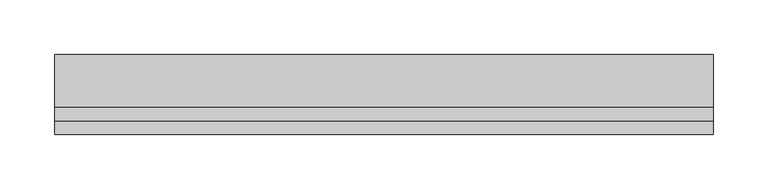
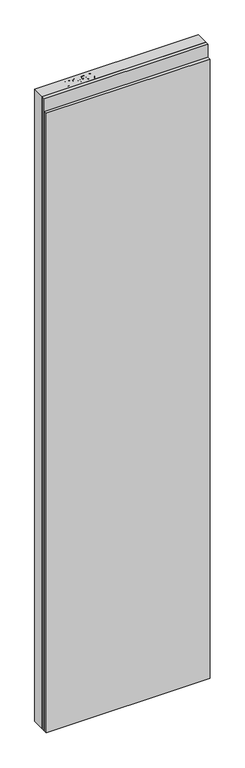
"""IFC4 building model written with IfcOpenShell, lengths in millimetres: proxy geometry, ParedeGeral_Blufab : Parede Geral - Largura 60 cm."""

from ifc_helpers import new_model, si_unit, origin, origin_with_axes, place, context, project, spatial, polyline, outline, extrude, source, transform, mapped, element, save


def generic_models_3c551f1f(model_context):
    return source(origin(), model_context, "Body", "SweptSolid", [
        extrude(outline(polyline([(600.0, 12.5), (600.0, 0.0), (0.0, 0.0), (0.0, 12.5), (600.0, 12.5)])), origin_with_axes(), (0.0, 0.0, 1.0), 2400.0),
        extrude(outline(polyline([(600.0, 25.0126803), (600.0, 12.5126803), (0.0, 12.5126803), (0.0, 25.0126803), (600.0, 25.0126803)])), origin_with_axes(), (0.0, 0.0, 1.0), 2450.0),
        extrude(outline(polyline([(600.0, 73.0), (600.0, 25.0126803), (0.0, 25.0126803), (0.0, 73.0), (600.0, 73.0)])), origin_with_axes(), (0.0, 0.0, 1.0), 2450.0),
        extrude(outline(polyline([(100.0857709, 33.3811762), (100.0857709, 63.5180693), (111.2546683, 63.5180693), (115.7575439, 63.2311213), (119.4179697, 61.8221333), (121.7908086, 58.9085079), (122.6884407, 54.799266), (120.2640983, 48.2877547), (111.5121857, 45.624289), (103.8528825, 45.624289), (103.8528825, 33.3811762), (100.0857709, 33.3811762)]), holes=[polyline([(103.8528825, 49.3914006), (111.7329149, 49.3914006), (117.2805753, 50.7746369), (118.921329, 54.6668285), (117.9537994, 57.7864678), (115.4117348, 59.4934402), (111.6446232, 59.7509576), (103.8528825, 59.7509576), (103.8528825, 49.3914006)])]), origin_with_axes(), (0.0, 0.0, 1.0), 2450.0),
        extrude(outline(polyline([(141.9948878, 45.1534001), (141.9948878, 48.9205117), (154.2380006, 48.9205117), (154.2380006, 37.655965), (148.1936994, 34.1022249), (141.8035891, 32.9102873), (133.7580099, 34.8048795), (128.2986411, 40.2900001), (126.4555523, 48.3024699), (128.2912835, 56.495202), (133.5703901, 62.1421906), (141.5019259, 63.9889582), (147.3953955, 62.9184216), (151.5267103, 59.9385774), (153.8038998, 54.9537764), (150.3310938, 53.9752103), (148.6130849, 57.4590528), (145.6773866, 59.4676885), (141.4430648, 60.2218466), (136.6201318, 59.4088274), (133.3386244, 57.2751118), (131.3998863, 54.3725229), (130.2226639, 48.4569804), (131.6390096, 41.8902868), (135.759288, 37.9613071), (141.5019259, 36.6773989), (146.6559527, 37.6449285), (150.470889, 39.7087465), (150.470889, 45.1534001), (141.9948878, 45.1534001)])), origin_with_axes(), (0.0, 0.0, 1.0), 2450.0),
        extrude(outline(polyline([(178.2533372, 55.512957), (174.4862256, 55.0420681), (173.0588435, 58.1837803), (169.2843742, 59.7509576), (165.8851446, 58.8386103), (163.3136494, 55.4136289), (162.2431128, 48.6997825), (165.5650872, 51.7053784), (169.6816867, 52.6876233), (176.0828335, 50.0020848), (178.7242262, 43.0638303), (177.480785, 37.8656577), (174.0594825, 34.1868378), (169.1225061, 32.9102873), (161.4448089, 36.2948016), (158.4760012, 47.4489837), (161.7722238, 60.0820514), (169.5198187, 63.5180693), (175.4721493, 61.3917113), (178.2533372, 55.512957)]), holes=[polyline([(162.2431128, 43.1226914), (163.1149931, 39.8595782), (165.4326497, 37.4904181), (168.8282005, 36.6773989), (173.2685362, 38.3622984), (174.9571146, 42.9387504), (173.2906091, 47.320225), (168.6736901, 48.9205117), (164.1156322, 47.320225), (162.2431128, 43.1226914)])]), origin_with_axes(), (0.0, 0.0, 1.0), 2450.0),
        extrude(outline(polyline([(182.0204489, 48.2068206), (183.1277737, 56.8777992), (186.4166387, 61.8773156), (191.9091169, 63.5180693), (196.3089856, 62.5468608), (199.3476908, 59.7472788), (201.1135244, 55.288549), (201.7977849, 48.2068206), (200.7014966, 39.5726302), (197.423668, 34.5620774), (191.9091169, 32.9102873), (185.0223659, 35.7797668), (182.0204489, 48.2068206)]), holes=[polyline([(185.7875605, 48.2141783), (187.5533941, 38.8589391), (191.9091169, 36.6773989), (196.2648397, 38.8662968), (198.0306733, 48.2141783), (196.3237008, 57.4627316), (191.8649711, 59.7509576), (187.6122552, 57.7349643), (185.7875605, 48.2141783)])]), origin_with_axes(), (0.0, 0.0, 1.0), 2450.0),
    ])


if __name__ == "__main__":
    model = new_model("IFC4")
    model_context = context("Model", 3, world=origin())
    ifc_project = project(units=[si_unit("LENGTHUNIT", "METRE", prefix="MILLI")], contexts=[model_context])
    site = spatial("IfcSite", under=ifc_project)
    building = spatial("IfcBuilding", under=site)
    placement = place(None, origin())
    generic_models_shape = generic_models_3c551f1f(model_context)
    element("IfcBuildingElementProxy", 1, Name="ParedeGeral_Blufab : Parede Geral - Largura 60 cm", ObjectType="ParedeGeral_Blufab : Parede Geral - Largura 60 cm", at=placement, inside=building, context=model_context, shape_type="MappedRepresentation", body=[
        mapped(generic_models_shape, transform((0.0, 0.0, 0.0), x_axis=(1.0, 0.0, 0.0), y_axis=(0.0, 1.0, 0.0), z_axis=(0.0, 0.0, 1.0))),
    ])
    save(model, "model.ifc")
